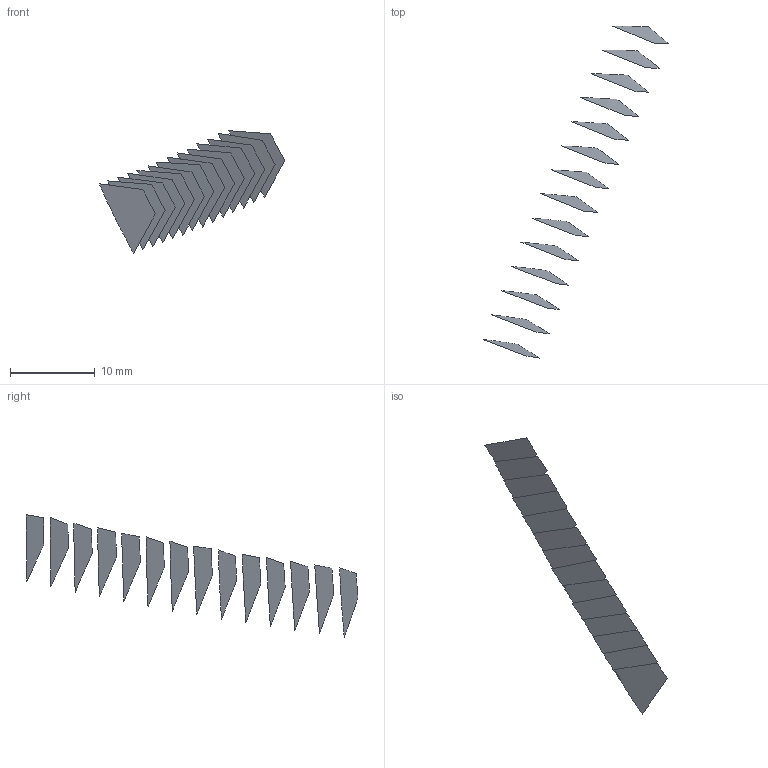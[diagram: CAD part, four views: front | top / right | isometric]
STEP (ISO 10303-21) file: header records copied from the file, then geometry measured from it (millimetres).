
FILE_DESCRIPTION(('FreeCAD Model'),'2;1');
FILE_NAME('Open CASCADE Shape Model','2022-05-22T07:50:31',('FreeCAD'),( 'FreeCAD'),'Open CASCADE STEP processor 7.5','FreeCAD','Unknown');
FILE_SCHEMA(('AUTOMOTIVE_DESIGN { 1 0 10303 214 1 1 1 1 }'));
Length unit declared in the file: millimetre
Products named in the file (15): Open CASCADE STEP translator 7.5 4; Open CASCADE STEP translator 7.5 4.1; Open CASCADE STEP translator 7.5 4.2; Open CASCADE STEP translator 7.5 4.3; Open CASCADE STEP translator 7.5 4.4; Open CASCADE STEP translator 7.5 4.5; Open CASCADE STEP translator 7.5 4.6; Open CASCADE STEP translator 7.5 4.7; Open CASCADE STEP translator 7.5 4.8; Open CASCADE STEP translator 7.5 4.9; Open CASCADE STEP translator 7.5 4.10; Open CASCADE STEP translator 7.5 4.11; Open CASCADE STEP translator 7.5 4.12; Open CASCADE STEP translator 7.5 4.13; Open CASCADE STEP translator 7.5 4.14
Assembly tree (14 placements, depth 2):
  Open CASCADE STEP translator 7.5 4
    Open CASCADE STEP translator 7.5 4.1
    Open CASCADE STEP translator 7.5 4.2
    Open CASCADE STEP translator 7.5 4.3
    Open CASCADE STEP translator 7.5 4.4
    Open CASCADE STEP translator 7.5 4.5
    Open CASCADE STEP translator 7.5 4.6
    Open CASCADE STEP translator 7.5 4.7
    Open CASCADE STEP translator 7.5 4.8
    Open CASCADE STEP translator 7.5 4.9
    Open CASCADE STEP translator 7.5 4.10
    Open CASCADE STEP translator 7.5 4.11
    Open CASCADE STEP translator 7.5 4.12
    Open CASCADE STEP translator 7.5 4.13
    Open CASCADE STEP translator 7.5 4.14
Bounding box: 21.87 x 39.09 x 14.45 mm (x, y, z)
Surface area: 421.2 mm2 (no closed solid volume)
Topology: 0 solids, 14 shells, 14 faces, 297 edges, 297 vertices
Faces by surface type: bspline 14
Entity records: 4269 total; most frequent: CARTESIAN_POINT 1556, B_SPLINE_CURVE_WITH_KNOTS 594, ORIENTED_EDGE 297, EDGE_CURVE 297, VERTEX_POINT 297, SURFACE_CURVE 297, PCURVE 297, DEFINITIONAL_REPRESENTATION 297
